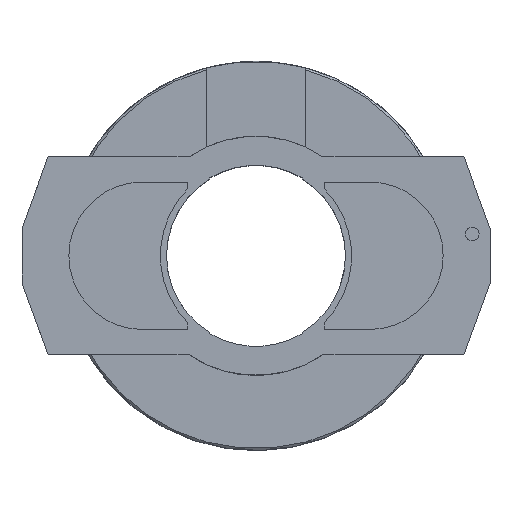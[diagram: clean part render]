
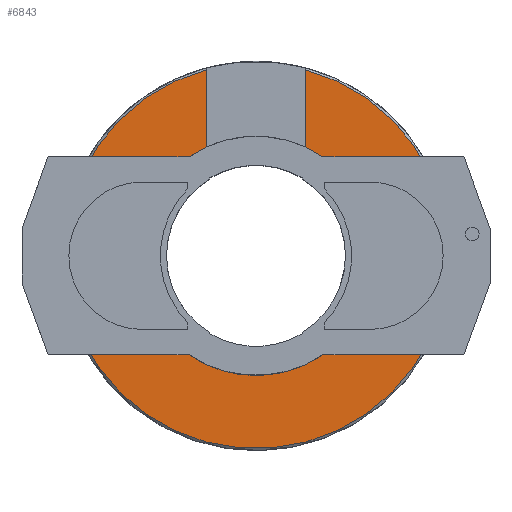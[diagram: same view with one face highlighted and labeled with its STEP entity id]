
A CAD part, top view. The second image highlights one B-rep face of the part: STEP entity #6843.
In plain terms, the highlighted planar face has unit normal (0, 0, 1).
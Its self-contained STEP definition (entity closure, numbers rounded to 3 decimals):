
#1923 = CONICAL_SURFACE('',#1924,28.5,0.785);
#1924 = AXIS2_PLACEMENT_3D('',#1925,#1926,#1927);
#1925 = CARTESIAN_POINT('',(0.,0.,12.7));
#1926 = DIRECTION('',(-0.,-0.,-1.));
#1927 = DIRECTION('',(1.,0.,-0.));
#1949 = PLANE('',#1950);
#1950 = AXIS2_PLACEMENT_3D('',#1951,#1952,#1953);
#1951 = CARTESIAN_POINT('',(-7.25,5.,12.));
#1952 = DIRECTION('',(1.,0.,-0.));
#1953 = DIRECTION('',(0.,0.,1.));
#2005 = PLANE('',#2006);
#2006 = AXIS2_PLACEMENT_3D('',#2007,#2008,#2009);
#2007 = CARTESIAN_POINT('',(7.25,5.,12.));
#2008 = DIRECTION('',(1.,0.,-0.));
#2009 = DIRECTION('',(0.,0.,1.));
#2116 = VERTEX_POINT('',#2117);
#2117 = CARTESIAN_POINT('',(7.25,27.252,13.));
#2142 = EDGE_CURVE('',#2143,#2116,#2145,.T.);
#2143 = VERTEX_POINT('',#2144);
#2144 = CARTESIAN_POINT('',(7.25,15.928,13.));
#2145 = SURFACE_CURVE('',#2146,(#2150,#2157),.PCURVE_S1.);
#2146 = LINE('',#2147,#2148);
#2147 = CARTESIAN_POINT('',(7.25,15.928,13.));
#2148 = VECTOR('',#2149,1.);
#2149 = DIRECTION('',(0.,1.,0.));
#2150 = PCURVE('',#2005,#2151);
#2151 = DEFINITIONAL_REPRESENTATION('',(#2152),#2156);
#2152 = LINE('',#2153,#2154);
#2153 = CARTESIAN_POINT('',(1.,-10.928));
#2154 = VECTOR('',#2155,1.);
#2155 = DIRECTION('',(0.,-1.));
#2156 = ( GEOMETRIC_REPRESENTATION_CONTEXT(2) 
PARAMETRIC_REPRESENTATION_CONTEXT() REPRESENTATION_CONTEXT('2D SPACE',''
  ) );
#2157 = PCURVE('',#2158,#2163);
#2158 = PLANE('',#2159);
#2159 = AXIS2_PLACEMENT_3D('',#2160,#2161,#2162);
#2160 = CARTESIAN_POINT('',(0.,0.,13.));
#2161 = DIRECTION('',(0.,0.,1.));
#2162 = DIRECTION('',(1.,0.,-0.));
#2163 = DEFINITIONAL_REPRESENTATION('',(#2164),#2168);
#2164 = LINE('',#2165,#2166);
#2165 = CARTESIAN_POINT('',(7.25,15.928));
#2166 = VECTOR('',#2167,1.);
#2167 = DIRECTION('',(0.,1.));
#2168 = ( GEOMETRIC_REPRESENTATION_CONTEXT(2) 
PARAMETRIC_REPRESENTATION_CONTEXT() REPRESENTATION_CONTEXT('2D SPACE',''
  ) );
#2184 = CYLINDRICAL_SURFACE('',#2185,17.5);
#2185 = AXIS2_PLACEMENT_3D('',#2186,#2187,#2188);
#2186 = CARTESIAN_POINT('',(0.,0.,13.));
#2187 = DIRECTION('',(0.,0.,1.));
#2188 = DIRECTION('',(1.,0.,-0.));
#2200 = VERTEX_POINT('',#2201);
#2201 = CARTESIAN_POINT('',(-7.25,15.928,13.));
#2224 = EDGE_CURVE('',#2200,#2225,#2227,.T.);
#2225 = VERTEX_POINT('',#2226);
#2226 = CARTESIAN_POINT('',(17.5,0.,13.));
#2227 = SURFACE_CURVE('',#2228,(#2233,#2240),.PCURVE_S1.);
#2228 = CIRCLE('',#2229,17.5);
#2229 = AXIS2_PLACEMENT_3D('',#2230,#2231,#2232);
#2230 = CARTESIAN_POINT('',(0.,0.,13.));
#2231 = DIRECTION('',(0.,0.,1.));
#2232 = DIRECTION('',(1.,0.,-0.));
#2233 = PCURVE('',#2184,#2234);
#2234 = DEFINITIONAL_REPRESENTATION('',(#2235),#2239);
#2235 = LINE('',#2236,#2237);
#2236 = CARTESIAN_POINT('',(0.,0.));
#2237 = VECTOR('',#2238,1.);
#2238 = DIRECTION('',(1.,0.));
#2239 = ( GEOMETRIC_REPRESENTATION_CONTEXT(2) 
PARAMETRIC_REPRESENTATION_CONTEXT() REPRESENTATION_CONTEXT('2D SPACE',''
  ) );
#2240 = PCURVE('',#2158,#2241);
#2241 = DEFINITIONAL_REPRESENTATION('',(#2242),#2246);
#2242 = CIRCLE('',#2243,17.5);
#2243 = AXIS2_PLACEMENT_2D('',#2244,#2245);
#2244 = CARTESIAN_POINT('',(0.,0.));
#2245 = DIRECTION('',(1.,0.));
#2246 = ( GEOMETRIC_REPRESENTATION_CONTEXT(2) 
PARAMETRIC_REPRESENTATION_CONTEXT() REPRESENTATION_CONTEXT('2D SPACE',''
  ) );
#2509 = EDGE_CURVE('',#2225,#2143,#2510,.T.);
#2510 = SURFACE_CURVE('',#2511,(#2516,#2523),.PCURVE_S1.);
#2511 = CIRCLE('',#2512,17.5);
#2512 = AXIS2_PLACEMENT_3D('',#2513,#2514,#2515);
#2513 = CARTESIAN_POINT('',(0.,0.,13.));
#2514 = DIRECTION('',(0.,0.,1.));
#2515 = DIRECTION('',(1.,0.,-0.));
#2516 = PCURVE('',#2184,#2517);
#2517 = DEFINITIONAL_REPRESENTATION('',(#2518),#2522);
#2518 = LINE('',#2519,#2520);
#2519 = CARTESIAN_POINT('',(0.,0.));
#2520 = VECTOR('',#2521,1.);
#2521 = DIRECTION('',(1.,0.));
#2522 = ( GEOMETRIC_REPRESENTATION_CONTEXT(2) 
PARAMETRIC_REPRESENTATION_CONTEXT() REPRESENTATION_CONTEXT('2D SPACE',''
  ) );
#2523 = PCURVE('',#2158,#2524);
#2524 = DEFINITIONAL_REPRESENTATION('',(#2525),#2529);
#2525 = CIRCLE('',#2526,17.5);
#2526 = AXIS2_PLACEMENT_2D('',#2527,#2528);
#2527 = CARTESIAN_POINT('',(0.,0.));
#2528 = DIRECTION('',(1.,0.));
#2529 = ( GEOMETRIC_REPRESENTATION_CONTEXT(2) 
PARAMETRIC_REPRESENTATION_CONTEXT() REPRESENTATION_CONTEXT('2D SPACE',''
  ) );
#6843 = ADVANCED_FACE('',(#6844),#2158,.T.);
#6844 = FACE_BOUND('',#6845,.T.);
#6845 = EDGE_LOOP('',(#6846,#6870,#6871,#6872,#6873));
#6846 = ORIENTED_EDGE('',*,*,#6847,.T.);
#6847 = EDGE_CURVE('',#6848,#2116,#6850,.T.);
#6848 = VERTEX_POINT('',#6849);
#6849 = CARTESIAN_POINT('',(-7.25,27.252,13.));
#6850 = SURFACE_CURVE('',#6851,(#6856,#6863),.PCURVE_S1.);
#6851 = CIRCLE('',#6852,28.2);
#6852 = AXIS2_PLACEMENT_3D('',#6853,#6854,#6855);
#6853 = CARTESIAN_POINT('',(0.,0.,13.));
#6854 = DIRECTION('',(0.,0.,1.));
#6855 = DIRECTION('',(-0.257,0.966,0.));
#6856 = PCURVE('',#2158,#6857);
#6857 = DEFINITIONAL_REPRESENTATION('',(#6858),#6862);
#6858 = CIRCLE('',#6859,28.2);
#6859 = AXIS2_PLACEMENT_2D('',#6860,#6861);
#6860 = CARTESIAN_POINT('',(0.,0.));
#6861 = DIRECTION('',(-0.257,0.966));
#6862 = ( GEOMETRIC_REPRESENTATION_CONTEXT(2) 
PARAMETRIC_REPRESENTATION_CONTEXT() REPRESENTATION_CONTEXT('2D SPACE',''
  ) );
#6863 = PCURVE('',#1923,#6864);
#6864 = DEFINITIONAL_REPRESENTATION('',(#6865),#6869);
#6865 = LINE('',#6866,#6867);
#6866 = CARTESIAN_POINT('',(-1.831,-0.3));
#6867 = VECTOR('',#6868,1.);
#6868 = DIRECTION('',(-1.,-0.));
#6869 = ( GEOMETRIC_REPRESENTATION_CONTEXT(2) 
PARAMETRIC_REPRESENTATION_CONTEXT() REPRESENTATION_CONTEXT('2D SPACE',''
  ) );
#6870 = ORIENTED_EDGE('',*,*,#2142,.F.);
#6871 = ORIENTED_EDGE('',*,*,#2509,.F.);
#6872 = ORIENTED_EDGE('',*,*,#2224,.F.);
#6873 = ORIENTED_EDGE('',*,*,#6874,.F.);
#6874 = EDGE_CURVE('',#6848,#2200,#6875,.T.);
#6875 = SURFACE_CURVE('',#6876,(#6880,#6887),.PCURVE_S1.);
#6876 = LINE('',#6877,#6878);
#6877 = CARTESIAN_POINT('',(-7.25,27.252,13.));
#6878 = VECTOR('',#6879,1.);
#6879 = DIRECTION('',(0.,-1.,0.));
#6880 = PCURVE('',#2158,#6881);
#6881 = DEFINITIONAL_REPRESENTATION('',(#6882),#6886);
#6882 = LINE('',#6883,#6884);
#6883 = CARTESIAN_POINT('',(-7.25,27.252));
#6884 = VECTOR('',#6885,1.);
#6885 = DIRECTION('',(0.,-1.));
#6886 = ( GEOMETRIC_REPRESENTATION_CONTEXT(2) 
PARAMETRIC_REPRESENTATION_CONTEXT() REPRESENTATION_CONTEXT('2D SPACE',''
  ) );
#6887 = PCURVE('',#1949,#6888);
#6888 = DEFINITIONAL_REPRESENTATION('',(#6889),#6893);
#6889 = LINE('',#6890,#6891);
#6890 = CARTESIAN_POINT('',(1.,-22.252));
#6891 = VECTOR('',#6892,1.);
#6892 = DIRECTION('',(0.,1.));
#6893 = ( GEOMETRIC_REPRESENTATION_CONTEXT(2) 
PARAMETRIC_REPRESENTATION_CONTEXT() REPRESENTATION_CONTEXT('2D SPACE',''
  ) );
